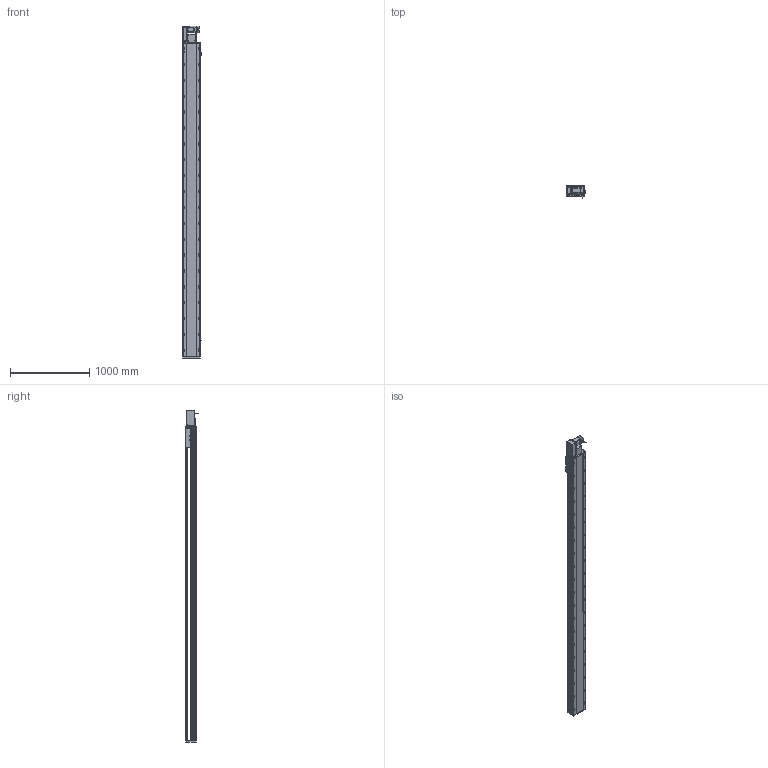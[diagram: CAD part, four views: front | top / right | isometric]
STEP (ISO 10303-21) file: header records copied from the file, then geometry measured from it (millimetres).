
FILE_DESCRIPTION (( 'STEP AP214' ), '1' );
FILE_NAME ('RTB22S-XX-3600-L-M75-C4.STEP', '2025-12-12T03:36:36', ( '' ), ( '' ), 'SwSTEP 2.0', 'SolidWorks 2018', '' );
FILE_SCHEMA (( 'AUTOMOTIVE_DESIGN' ));
Length unit declared in the file: millimetre
Products named in the file (14): OMRON EE-SX672 传感器^RTB22S-XX-XX-L-M75-C4; RTB22S-GY-018P^RTB22S-L-々湍釱蚾饜_RTB22S-XX-XX-L-M75-C4; RTB22S-GY-005P^RTB22S-L-々湍釱蚾饜_RTB22S-XX-XX-L-M75-C4; 750W萇儂^RTB22S-XX-XX-L-M75-C4; RTB22S-GY-017P^RTB22S-L-々湍釱蚾饜_RTB22S-XX-XX-L-M75-C4; RTB22S-L-011菁釱^RTB22S-XX-XX-L-M75-C4; RTB22S-GY-014--々湍釱^RTB22S-L-々湍釱蚾饜_RTB22S-XX-XX-L-M75-C4; RTB22S-GY-001耜裔^RTB22S-XX-XX-L-M75-C4; RTB22S-GY-008-M75--萇儂啣^RTB22S-L-々湍釱蚾饜_RTB22S-XX-XX-L-M75-C4; RTB22S-L-々湍釱蚾饜^RTB22S-XX-XX-L-M75-C4; RTB22S-GY-007奻裔^RTB22S-XX-XX-L-M75-C4; RTB22S-XX-3600-L-M75-C4; RTB22S-L-004賑釱^RTB22S-XX-XX-L-M75-C4; RTH22-GY-013外置感应片^RTB22S-XX-XX-L-M75-C4
Assembly tree (16 placements, depth 3):
  RTB22S-XX-3600-L-M75-C4
    RTB22S-L-011菁釱^RTB22S-XX-XX-L-M75-C4
    750W萇儂^RTB22S-XX-XX-L-M75-C4
    RTB22S-L-004賑釱^RTB22S-XX-XX-L-M75-C4
    OMRON EE-SX672 传感器^RTB22S-XX-XX-L-M75-C4  x3
    RTH22-GY-013外置感应片^RTB22S-XX-XX-L-M75-C4
    RTB22S-GY-007奻裔^RTB22S-XX-XX-L-M75-C4
    RTB22S-GY-001耜裔^RTB22S-XX-XX-L-M75-C4
    RTB22S-L-々湍釱蚾饜^RTB22S-XX-XX-L-M75-C4
      RTB22S-GY-014--々湍釱^RTB22S-L-々湍釱蚾饜_RTB22S-XX-XX-L-M75-C4
      RTB22S-GY-017P^RTB22S-L-々湍釱蚾饜_RTB22S-XX-XX-L-M75-C4  x2
      RTB22S-GY-005P^RTB22S-L-々湍釱蚾饜_RTB22S-XX-XX-L-M75-C4
      RTB22S-GY-008-M75--萇儂啣^RTB22S-L-々湍釱蚾饜_RTB22S-XX-XX-L-M75-C4
      RTB22S-GY-018P^RTB22S-L-々湍釱蚾饜_RTB22S-XX-XX-L-M75-C4
Bounding box: 238.5 x 162.7 x 4179 mm (x, y, z)
Volume: 51582651.4 mm3; surface area: 5244242.7 mm2
Topology: 15 solids, 15 shells, 2199 faces, 5986 edges, 3812 vertices
Faces by surface type: plane 939, cylinder 766, bspline 296, cone 186, sphere 8, torus 4
Entity records: 60664 total; most frequent: CARTESIAN_POINT 16948, ORIENTED_EDGE 8664, DIRECTION 8546, EDGE_CURVE 4332, AXIS2_PLACEMENT_3D 3094, VERTEX_POINT 2816, VECTOR 2358, LINE 2358
